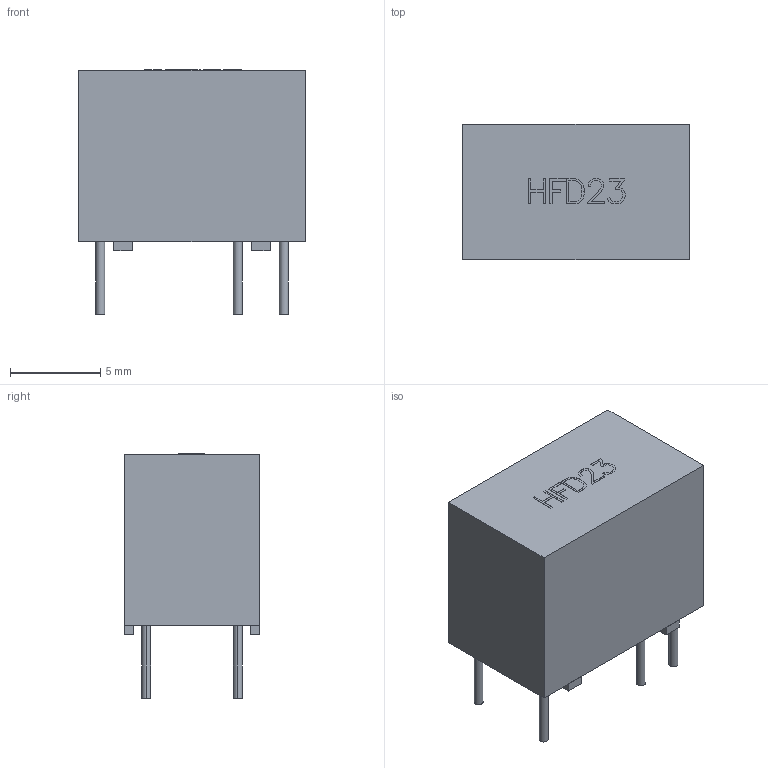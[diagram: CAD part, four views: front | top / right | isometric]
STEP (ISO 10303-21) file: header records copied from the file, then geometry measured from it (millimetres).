
FILE_DESCRIPTION (( 'STEP AP214' ), '1' );
FILE_NAME ('User Library-HFD23_Free-Models1.STEP', '2014-10-28T16:55:40', ( '' ), ( '' ), 'SwSTEP 2.0', 'SolidWorks 2014', '' );
FILE_SCHEMA (( 'AUTOMOTIVE_DESIGN' ));
Length unit declared in the file: millimetre
Products named in the file (17): User Library-HFD23_Extruded7; User Library-HFD23_328060881; User Library-HFD23_328060753; User Library-HFD23_328060241; User Library-HFD23_Extruded12; User Library-HFD23_Extruded8; User Library-HFD23_Extruded11; User Library-HFD23_327847185; User Library-HFD23_328061521; User Library-HFD23_328061137; User Library-HFD23_Cylinder1; User Library-HFD23_Extruded10; User Library-HFD23_Extruded13; User Library-HFD23_328060625; User Library-HFD23_328060369; User Library-HFD23_Free-Models1; User Library-HFD23_Extruded9
Assembly tree (24 placements, depth 3):
  User Library-HFD23_Free-Models1
    User Library-HFD23_327847185  x6
      User Library-HFD23_Cylinder1
    User Library-HFD23_328060881  x4
      User Library-HFD23_Extruded12
    User Library-HFD23_328060625
      User Library-HFD23_Extruded9
    User Library-HFD23_328061521
      User Library-HFD23_Extruded10
    User Library-HFD23_328060753
      User Library-HFD23_Extruded8
    User Library-HFD23_328060369
      User Library-HFD23_Extruded7
    User Library-HFD23_328061137
      User Library-HFD23_Extruded13
    User Library-HFD23_328060241
      User Library-HFD23_Extruded11
Bounding box: 12.5 x 7.5 x 13.51 mm (x, y, z)
Volume: 896.4 mm3; surface area: 622.4 mm2
Topology: 15 solids, 17 shells, 174 faces, 425 edges, 284 vertices
Faces by surface type: plane 162, cylinder 12
Entity records: 4772 total; most frequent: CARTESIAN_POINT 771, ORIENTED_EDGE 714, DIRECTION 707, EDGE_CURVE 359, LINE 355, VECTOR 355, VERTEX_POINT 240, AXIS2_PLACEMENT_3D 176
